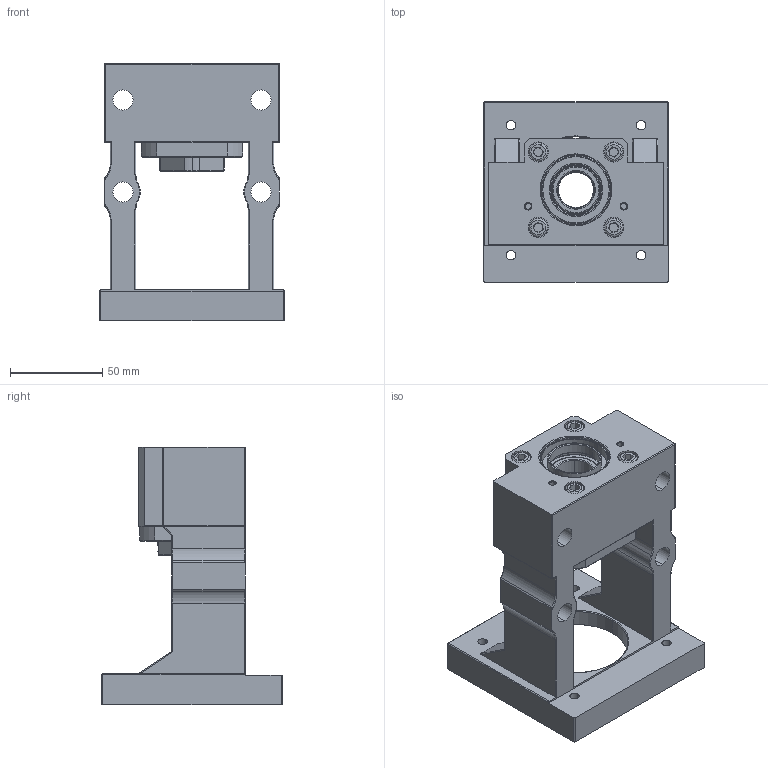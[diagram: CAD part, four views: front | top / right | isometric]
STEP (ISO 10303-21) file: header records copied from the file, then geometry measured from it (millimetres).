
FILE_DESCRIPTION (( 'STEP AP203' ), '1' );
FILE_NAME ('MBCF20-X.STEP', '2017-12-28T07:28:02', ( '' ), ( '' ), 'SwSTEP 2.0', 'SolidWorks 2017', '' );
FILE_SCHEMA (( 'CONFIG_CONTROL_DESIGN' ));
Length unit declared in the file: millimetre
Products named in the file (1): MBCF20-X
Bounding box: 100 x 98 x 140 mm (x, y, z)
Surface area: 84775 mm2 (no closed solid volume)
Topology: 0 solids, 20 shells, 363 faces, 914 edges, 573 vertices
Faces by surface type: cylinder 137, plane 111, torus 56, cone 53, bspline 4, sphere 2
Entity records: 11416 total; most frequent: CARTESIAN_POINT 2517, DIRECTION 1983, ORIENTED_EDGE 1687, EDGE_CURVE 910, AXIS2_PLACEMENT_3D 791, VERTEX_POINT 573, CIRCLE 431, EDGE_LOOP 423
